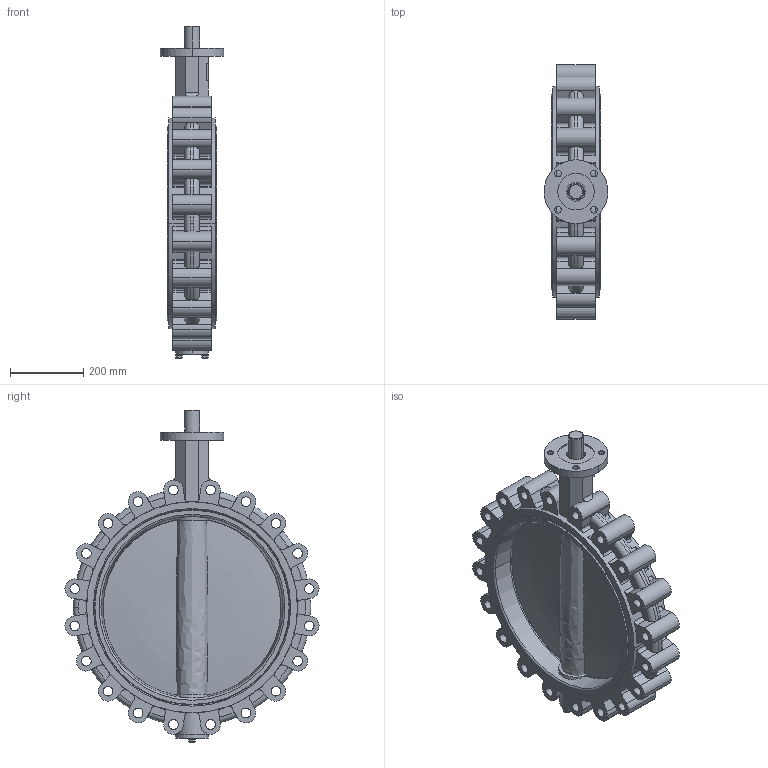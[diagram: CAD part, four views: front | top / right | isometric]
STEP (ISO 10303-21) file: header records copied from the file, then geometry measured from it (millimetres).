
FILE_DESCRIPTION(('Open CASCADE Model'),'2;1');
FILE_NAME('Open CASCADE Shape Model','2022-03-10T13:59:25',('Author'),( 'Open CASCADE'),'Open CASCADE STEP processor 7.3','Open CASCADE 7.3' ,'Unknown');
FILE_SCHEMA(('AUTOMOTIVE_DESIGN { 1 0 10303 214 1 1 1 1 }'));
Length unit declared in the file: millimetre
Products named in the file (13): Open CASCADE STEP translator 7.3 1; Open CASCADE STEP translator 7.3 1.1; Open CASCADE STEP translator 7.3 1.2; Open CASCADE STEP translator 7.3 1.3; Open CASCADE STEP translator 7.3 1.4; Open CASCADE STEP translator 7.3 1.5; Open CASCADE STEP translator 7.3 1.6; Open CASCADE STEP translator 7.3 1.7; Open CASCADE STEP translator 7.3 1.8; Open CASCADE STEP translator 7.3 1.9; Open CASCADE STEP translator 7.3 1.10; Open CASCADE STEP translator 7.3 1.11; Open CASCADE STEP translator 7.3 1.12
Assembly tree (12 placements, depth 2):
  Open CASCADE STEP translator 7.3 1
    Open CASCADE STEP translator 7.3 1.1
    Open CASCADE STEP translator 7.3 1.2
    Open CASCADE STEP translator 7.3 1.3
    Open CASCADE STEP translator 7.3 1.4
    Open CASCADE STEP translator 7.3 1.5
    Open CASCADE STEP translator 7.3 1.6
    Open CASCADE STEP translator 7.3 1.7
    Open CASCADE STEP translator 7.3 1.8
    Open CASCADE STEP translator 7.3 1.9
    Open CASCADE STEP translator 7.3 1.10
    Open CASCADE STEP translator 7.3 1.11
    Open CASCADE STEP translator 7.3 1.12
Bounding box: 175 x 695.99 x 909.27 mm (x, y, z)
Volume: 22619943.4 mm3; surface area: 2223186.6 mm2
Topology: 12 solids, 12 shells, 628 faces, 1697 edges, 1108 vertices
Faces by surface type: cylinder 291, plane 207, torus 68, cone 56, revolution 4, bspline 2
Entity records: 61826 total; most frequent: CARTESIAN_POINT 28442, DIRECTION 6255, ORIENTED_EDGE 3382, PCURVE 3382, DEFINITIONAL_REPRESENTATION 3382, LINE 3013, VECTOR 3013, EDGE_CURVE 1691
